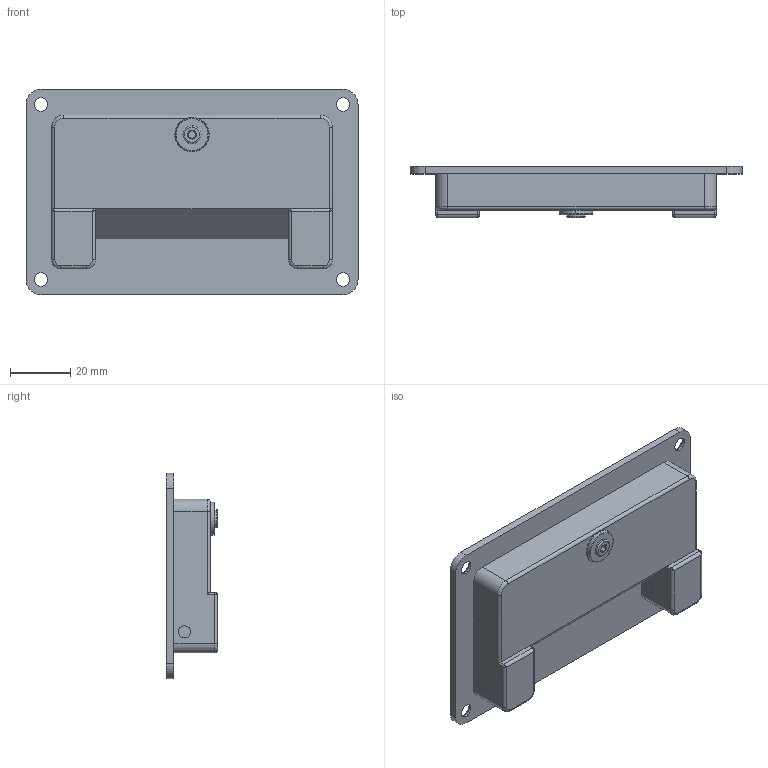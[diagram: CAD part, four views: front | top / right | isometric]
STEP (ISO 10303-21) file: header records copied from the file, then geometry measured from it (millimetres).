
FILE_DESCRIPTION (( 'STEP AP203' ), '1' );
FILE_NAME ('SK4-025-1.STEP', '2018-11-02T05:17:54', ( 'admin' ), ( 'Microsoft' ), 'SwSTEP 2.0', 'SolidWorks 2015', '' );
FILE_SCHEMA (( 'CONFIG_CONTROL_DESIGN' ));
Length unit declared in the file: millimetre
Products named in the file (5): SK4-025-1參忒; SK4-025-1 蜇璃; SK4-025-1种隊; SK4-025-1
Assembly tree (5 placements, depth 2):
  SK4-025-1
    SK4-025-1
    SK4-025-1參忒
    SK4-025-1 蜇璃
    SK4-025-1种隊  x2
Bounding box: 110 x 17 x 68 mm (x, y, z)
Volume: 39290.1 mm3; surface area: 29127.9 mm2
Topology: 5 solids, 5 shells, 265 faces, 617 edges, 348 vertices
Faces by surface type: cylinder 123, plane 58, torus 49, sphere 14, bspline 13, cone 8
Entity records: 8716 total; most frequent: CARTESIAN_POINT 2206, DIRECTION 1368, ORIENTED_EDGE 1186, EDGE_CURVE 593, AXIS2_PLACEMENT_3D 556, VERTEX_POINT 344, CIRCLE 300, EDGE_LOOP 289
